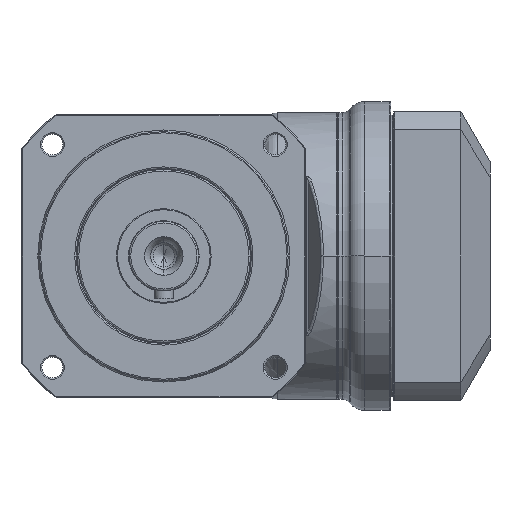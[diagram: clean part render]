
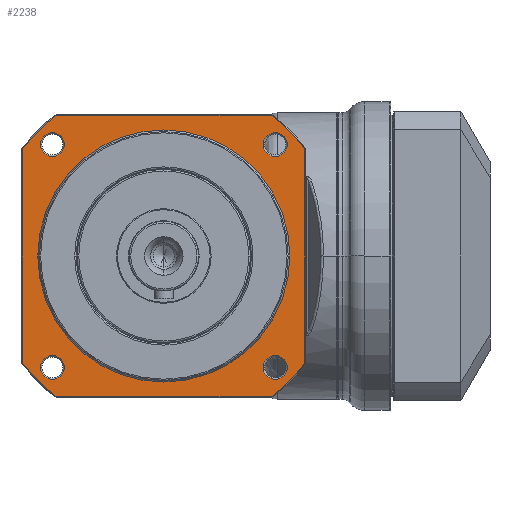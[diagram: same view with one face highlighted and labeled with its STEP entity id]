
A CAD part, left-side view. The second image highlights one B-rep face of the part: STEP entity #2238.
In plain terms, the highlighted planar face has unit normal (-1, 0, 0).
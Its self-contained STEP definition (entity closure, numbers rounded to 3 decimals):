
#561=CARTESIAN_POINT('',(8.5,35.355,-35.355));
#562=DIRECTION('',(1.,0.,0.));
#563=DIRECTION('',(0.,-1.,0.));
#564=AXIS2_PLACEMENT_3D('',#561,#562,#563);
#566=CARTESIAN_POINT('',(8.5,35.355,-35.355));
#567=DIRECTION('',(1.,0.,0.));
#568=DIRECTION('',(0.,1.,0.));
#569=AXIS2_PLACEMENT_3D('',#566,#567,#568);
#571=CARTESIAN_POINT('',(8.5,35.355,35.355));
#572=DIRECTION('',(1.,0.,0.));
#573=DIRECTION('',(0.,0.,-1.));
#574=AXIS2_PLACEMENT_3D('',#571,#572,#573);
#576=CARTESIAN_POINT('',(8.5,35.355,35.355));
#577=DIRECTION('',(1.,0.,0.));
#578=DIRECTION('',(0.,0.,1.));
#579=AXIS2_PLACEMENT_3D('',#576,#577,#578);
#581=CARTESIAN_POINT('',(8.5,-35.355,35.355));
#582=DIRECTION('',(1.,0.,0.));
#583=DIRECTION('',(0.,1.,0.));
#584=AXIS2_PLACEMENT_3D('',#581,#582,#583);
#586=CARTESIAN_POINT('',(8.5,-35.355,35.355));
#587=DIRECTION('',(1.,0.,0.));
#588=DIRECTION('',(0.,-1.,0.));
#589=AXIS2_PLACEMENT_3D('',#586,#587,#588);
#591=CARTESIAN_POINT('',(8.5,-35.355,-35.355));
#592=DIRECTION('',(1.,0.,0.));
#593=DIRECTION('',(0.,0.,1.));
#594=AXIS2_PLACEMENT_3D('',#591,#592,#593);
#596=CARTESIAN_POINT('',(8.5,-35.355,-35.355));
#597=DIRECTION('',(1.,0.,0.));
#598=DIRECTION('',(0.,0.,-1.));
#599=AXIS2_PLACEMENT_3D('',#596,#597,#598);
#601=CARTESIAN_POINT('',(8.5,0.,0.));
#602=DIRECTION('',(-1.,0.,0.));
#603=DIRECTION('',(0.,1.,0.));
#604=AXIS2_PLACEMENT_3D('',#601,#602,#603);
#606=CARTESIAN_POINT('',(8.5,0.,0.));
#607=DIRECTION('',(-1.,0.,0.));
#608=DIRECTION('',(0.,-1.,0.));
#609=AXIS2_PLACEMENT_3D('',#606,#607,#608);
#611=CARTESIAN_POINT('',(8.5,0.,0.));
#612=DIRECTION('',(-1.,0.,0.));
#613=DIRECTION('',(0.,0.795,-0.606));
#614=AXIS2_PLACEMENT_3D('',#611,#612,#613);
#616=DIRECTION('',(0.,0.,-1.));
#617=VECTOR('',#616,68.128);
#618=CARTESIAN_POINT('',(8.5,44.7,34.064));
#619=LINE('',#618,#617);
#620=CARTESIAN_POINT('',(8.5,0.,0.));
#621=DIRECTION('',(-1.,0.,0.));
#622=DIRECTION('',(0.,0.606,0.795));
#623=AXIS2_PLACEMENT_3D('',#620,#621,#622);
#625=DIRECTION('',(0.,1.,0.));
#626=VECTOR('',#625,68.128);
#627=CARTESIAN_POINT('',(8.5,-34.064,44.7));
#628=LINE('',#627,#626);
#629=CARTESIAN_POINT('',(8.5,0.,0.));
#630=DIRECTION('',(-1.,0.,0.));
#631=DIRECTION('',(0.,-0.795,0.606));
#632=AXIS2_PLACEMENT_3D('',#629,#630,#631);
#634=DIRECTION('',(0.,0.,1.));
#635=VECTOR('',#634,68.128);
#636=CARTESIAN_POINT('',(8.5,-44.7,-34.064));
#637=LINE('',#636,#635);
#638=CARTESIAN_POINT('',(8.5,0.,0.));
#639=DIRECTION('',(-1.,0.,0.));
#640=DIRECTION('',(0.,-0.606,-0.795));
#641=AXIS2_PLACEMENT_3D('',#638,#639,#640);
#643=DIRECTION('',(0.,-1.,0.));
#644=VECTOR('',#643,68.128);
#645=CARTESIAN_POINT('',(8.5,34.064,-44.7));
#646=LINE('',#645,#644);
#1201=CARTESIAN_POINT('',(8.5,31.555,-35.355));
#1202=CARTESIAN_POINT('',(8.5,39.155,-35.355));
#1203=VERTEX_POINT('',#1201);
#1204=VERTEX_POINT('',#1202);
#1217=CARTESIAN_POINT('',(8.5,35.355,31.555));
#1218=CARTESIAN_POINT('',(8.5,35.355,39.155));
#1219=VERTEX_POINT('',#1217);
#1220=VERTEX_POINT('',#1218);
#1233=CARTESIAN_POINT('',(8.5,-31.555,35.355));
#1234=CARTESIAN_POINT('',(8.5,-39.155,35.355));
#1235=VERTEX_POINT('',#1233);
#1236=VERTEX_POINT('',#1234);
#1249=CARTESIAN_POINT('',(8.5,-35.355,
-31.555));
#1250=CARTESIAN_POINT('',(8.5,-35.355,
-39.155));
#1251=VERTEX_POINT('',#1249);
#1252=VERTEX_POINT('',#1250);
#1337=CARTESIAN_POINT('',(8.5,44.7,-34.064));
#1338=CARTESIAN_POINT('',(8.5,34.064,-44.7));
#1339=VERTEX_POINT('',#1337);
#1340=VERTEX_POINT('',#1338);
#1341=CARTESIAN_POINT('',(8.5,-34.064,
-44.7));
#1342=VERTEX_POINT('',#1341);
#1347=CARTESIAN_POINT('',(8.5,-44.7,-34.064));
#1348=VERTEX_POINT('',#1347);
#1349=CARTESIAN_POINT('',(8.5,-44.7,34.064));
#1350=VERTEX_POINT('',#1349);
#1355=CARTESIAN_POINT('',(8.5,-34.064,44.7));
#1356=VERTEX_POINT('',#1355);
#1357=CARTESIAN_POINT('',(8.5,34.064,44.7));
#1358=VERTEX_POINT('',#1357);
#1363=CARTESIAN_POINT('',(8.5,44.7,34.064));
#1364=VERTEX_POINT('',#1363);
#1373=CARTESIAN_POINT('',(8.5,40.,0.));
#1374=CARTESIAN_POINT('',(8.5,-40.,0.));
#1375=VERTEX_POINT('',#1373);
#1376=VERTEX_POINT('',#1374);
#2186=CARTESIAN_POINT('',(8.5,0.,0.));
#2187=DIRECTION('',(1.,0.,0.));
#2188=DIRECTION('',(0.,-1.,0.));
#2189=AXIS2_PLACEMENT_3D('',#2186,#2187,#2188);
#2190=PLANE('',#2189);
#2192=ORIENTED_EDGE('',*,*,#2191,.F.);
#2194=ORIENTED_EDGE('',*,*,#2193,.F.);
#2196=ORIENTED_EDGE('',*,*,#2195,.F.);
#2198=ORIENTED_EDGE('',*,*,#2197,.F.);
#2200=ORIENTED_EDGE('',*,*,#2199,.F.);
#2202=ORIENTED_EDGE('',*,*,#2201,.F.);
#2204=ORIENTED_EDGE('',*,*,#2203,.F.);
#2206=ORIENTED_EDGE('',*,*,#2205,.F.);
#2207=EDGE_LOOP('',(#2192,#2194,#2196,#2198,#2200,#2202,#2204,#2206));
#2208=FACE_OUTER_BOUND('',#2207,.F.);
#2209=ORIENTED_EDGE('',*,*,#2176,.F.);
#2211=ORIENTED_EDGE('',*,*,#2210,.F.);
#2212=EDGE_LOOP('',(#2209,#2211));
#2213=FACE_BOUND('',#2212,.F.);
#2215=ORIENTED_EDGE('',*,*,#2214,.F.);
#2217=ORIENTED_EDGE('',*,*,#2216,.F.);
#2218=EDGE_LOOP('',(#2215,#2217));
#2219=FACE_BOUND('',#2218,.F.);
#2221=ORIENTED_EDGE('',*,*,#2220,.F.);
#2223=ORIENTED_EDGE('',*,*,#2222,.F.);
#2224=EDGE_LOOP('',(#2221,#2223));
#2225=FACE_BOUND('',#2224,.F.);
#2227=ORIENTED_EDGE('',*,*,#2226,.F.);
#2229=ORIENTED_EDGE('',*,*,#2228,.F.);
#2230=EDGE_LOOP('',(#2227,#2229));
#2231=FACE_BOUND('',#2230,.F.);
#2233=ORIENTED_EDGE('',*,*,#2232,.T.);
#2235=ORIENTED_EDGE('',*,*,#2234,.T.);
#2236=EDGE_LOOP('',(#2233,#2235));
#2237=FACE_BOUND('',#2236,.F.);
#2238=ADVANCED_FACE('',(#2208,#2213,#2219,#2225,#2231,#2237),#2190,.F.);
#565=CIRCLE('',#564,3.8);
#570=CIRCLE('',#569,3.8);
#575=CIRCLE('',#574,3.8);
#580=CIRCLE('',#579,3.8);
#585=CIRCLE('',#584,3.8);
#590=CIRCLE('',#589,3.8);
#595=CIRCLE('',#594,3.8);
#600=CIRCLE('',#599,3.8);
#605=CIRCLE('',#604,40.);
#610=CIRCLE('',#609,40.);
#615=CIRCLE('',#614,56.2);
#624=CIRCLE('',#623,56.2);
#633=CIRCLE('',#632,56.2);
#642=CIRCLE('',#641,56.2);
#2176=EDGE_CURVE('',#1203,#1204,#565,.T.);
#2191=EDGE_CURVE('',#1339,#1340,#615,.T.);
#2193=EDGE_CURVE('',#1364,#1339,#619,.T.);
#2195=EDGE_CURVE('',#1358,#1364,#624,.T.);
#2197=EDGE_CURVE('',#1356,#1358,#628,.T.);
#2199=EDGE_CURVE('',#1350,#1356,#633,.T.);
#2201=EDGE_CURVE('',#1348,#1350,#637,.T.);
#2203=EDGE_CURVE('',#1342,#1348,#642,.T.);
#2205=EDGE_CURVE('',#1340,#1342,#646,.T.);
#2210=EDGE_CURVE('',#1204,#1203,#570,.T.);
#2214=EDGE_CURVE('',#1219,#1220,#575,.T.);
#2216=EDGE_CURVE('',#1220,#1219,#580,.T.);
#2220=EDGE_CURVE('',#1235,#1236,#585,.T.);
#2222=EDGE_CURVE('',#1236,#1235,#590,.T.);
#2226=EDGE_CURVE('',#1251,#1252,#595,.T.);
#2228=EDGE_CURVE('',#1252,#1251,#600,.T.);
#2232=EDGE_CURVE('',#1375,#1376,#605,.T.);
#2234=EDGE_CURVE('',#1376,#1375,#610,.T.);
